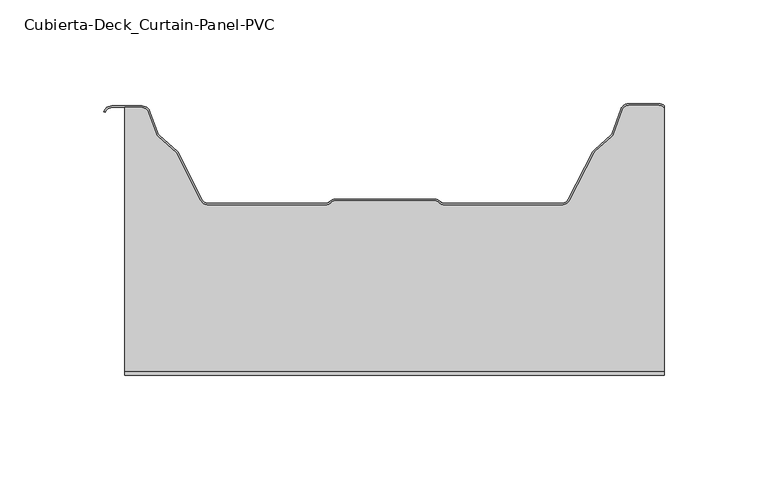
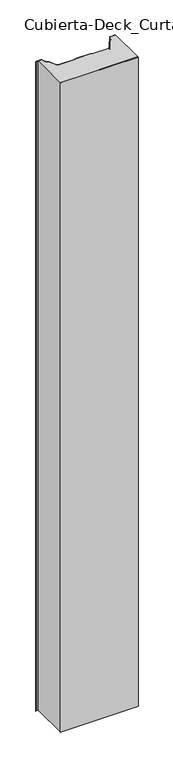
"""IFC4 building model written with IfcOpenShell, lengths in millimetres: plate geometry, Cubierta-Deck_Curtain-Panel-PVC : ACH_Cubierta-Deck_MW_80 mm."""

from ifc_helpers import new_model, si_unit, point, frame_2d, origin, origin_with_axes, place, context, project, spatial, polyline, circle_curve, trimmed, segment, composite_curve, outline, extrude, source, transform, mapped, element, save


def cubierta_deck_curtain_panel_pvc_baeb70c4(model_context):
    return source(origin(), model_context, "Body", "SweptSolid", [
        extrude(outline(composite_curve([segment(polyline([(20.9864059, -47.2718753), (21.6065616, -47.892031)]), True, "CONTINUOUS"), segment(trimmed(circle_curve(frame_2d((23.7985927, -45.7)), 3.1), [point((21.6065616, -47.892031))], [point((23.7985927, -48.8))], True, "CARTESIAN"), True, "CONTINUOUS"), segment(polyline([(23.7985927, -48.8), (80.5938139, -48.8)]), True, "CONTINUOUS"), segment(trimmed(circle_curve(frame_2d((80.5938139, -44.5)), 4.3), [point((80.5938139, -48.8))], [point((84.4115915, -46.4785284))], True, "CARTESIAN"), True, "CONTINUOUS"), segment(polyline([(84.4115915, -46.4785284), (96.3174124, -23.505001)]), True, "CONTINUOUS"), segment(trimmed(circle_curve(frame_2d((98.8921926, -24.8393573)), 2.9), [point((96.3174124, -23.505001))], [point((96.982764, -22.6566795))], False, "CARTESIAN"), True, "CONTINUOUS"), segment(polyline([(96.982764, -22.6566795), (104.7502093, -15.8616403)]), True, "CONTINUOUS"), segment(trimmed(circle_curve(frame_2d((102.709096, -13.5284329)), 3.1), [point((104.7502093, -15.8616403))], [point((105.6260947, -14.5777749))], True, "CARTESIAN"), True, "CONTINUOUS"), segment(polyline([(105.6260947, -14.5777749), (109.7733414, -3.0491088)]), True, "CONTINUOUS"), segment(trimmed(circle_curve(frame_2d((112.9726303, -4.2)), 3.4), [point((109.7733414, -3.0491088))], [point((112.9726303, -0.8))], False, "CARTESIAN"), True, "CONTINUOUS"), segment(polyline([(112.9726303, -0.8), (127.3079028, -0.8)]), True, "CONTINUOUS"), segment(trimmed(circle_curve(frame_2d((127.3079028, -4.2)), 3.4), [point((127.3079028, -0.8))], [point((130.0, -2.1233169))], False, "CARTESIAN"), True, "CONTINUOUS"), segment(polyline([(130.0, -2.1233169), (130.0, -128.8), (-130.0, -128.8), (-130.0, -1.8), (-121.8323638, -1.8)]), True, "CONTINUOUS"), segment(trimmed(circle_curve(frame_2d((-121.8323638, -5.2)), 3.4), [point((-121.8323638, -1.8))], [point((-118.6330749, -4.0491088))], False, "CARTESIAN"), True, "CONTINUOUS"), segment(polyline([(-118.6330749, -4.0491088), (-114.8455616, -14.5777749)]), True, "CONTINUOUS"), segment(trimmed(circle_curve(frame_2d((-111.9285629, -13.5284329)), 3.1), [point((-114.8455616, -14.5777749))], [point((-113.9696761, -15.8616403))], True, "CARTESIAN"), True, "CONTINUOUS"), segment(polyline([(-113.9696761, -15.8616403), (-105.3099327, -23.4372709)]), True, "CONTINUOUS"), segment(trimmed(circle_curve(frame_2d((-107.2193612, -25.6199488)), 2.9), [point((-105.3099327, -23.4372709))], [point((-104.6223111, -24.3294719))], False, "CARTESIAN"), True, "CONTINUOUS"), segment(polyline([(-104.6223111, -24.3294719), (-93.6487521, -46.4134657)]), True, "CONTINUOUS"), segment(trimmed(circle_curve(frame_2d((-89.7979536, -44.5)), 4.3), [point((-93.6487521, -46.4134657))], [point((-89.7979536, -48.8))], True, "CARTESIAN"), True, "CONTINUOUS"), segment(polyline([(-89.7979536, -48.8), (-33.0180596, -48.8)]), True, "CONTINUOUS"), segment(trimmed(circle_curve(frame_2d((-33.0180596, -45.7)), 3.1), [point((-33.0180596, -48.8))], [point((-30.8260285, -47.892031))], True, "CARTESIAN"), True, "CONTINUOUS"), segment(polyline([(-30.8260285, -47.892031), (-30.2058728, -47.2718753)]), True, "CONTINUOUS"), segment(trimmed(circle_curve(frame_2d((-28.5327782, -50.0020238)), 3.2020238), [point((-30.2058728, -47.2718753))], [point((-28.5327782, -46.8))], False, "CARTESIAN"), True, "CONTINUOUS"), segment(polyline([(-28.5327782, -46.8), (19.3133113, -46.8)]), True, "CONTINUOUS"), segment(trimmed(circle_curve(frame_2d((19.3133113, -50.0020238)), 3.2020238), [point((19.3133113, -46.8))], [point((20.9864059, -47.2718753))], False, "CARTESIAN"), True, "CONTINUOUS")], self_intersect=False)), origin_with_axes(), (0.0, 0.0, 1.0), 2300.0),
        extrude(outline(composite_curve([segment(polyline([(-136.1676362, -1.0), (-121.8323638, -1.0)]), True, "CONTINUOUS"), segment(trimmed(circle_curve(frame_2d((-121.8323638, -5.2)), 4.2), [point((-121.8323638, -1.0))], [point((-117.880301, -3.7783109))], False, "CARTESIAN"), True, "CONTINUOUS"), segment(polyline([(-117.880301, -3.7783109), (-114.0927877, -14.3069769)]), True, "CONTINUOUS"), segment(trimmed(circle_curve(frame_2d((-111.9285629, -13.5284329)), 2.3), [point((-114.0927877, -14.3069769))], [point((-113.4429372, -15.2595222))], True, "CARTESIAN"), True, "CONTINUOUS"), segment(polyline([(-113.4429372, -15.2595222), (-104.7831938, -22.8351529)]), True, "CONTINUOUS"), segment(trimmed(circle_curve(frame_2d((-107.2193612, -25.6199488)), 3.7), [point((-104.7831938, -22.8351529))], [point((-103.9058834, -23.9734783))], False, "CARTESIAN"), True, "CONTINUOUS"), segment(polyline([(-103.9058834, -23.9734783), (-92.9323245, -46.0574721)]), True, "CONTINUOUS"), segment(trimmed(circle_curve(frame_2d((-89.7979536, -44.5)), 3.5), [point((-92.9323245, -46.0574721))], [point((-89.7979536, -48.0))], True, "CARTESIAN"), True, "CONTINUOUS"), segment(polyline([(-89.7979536, -48.0), (-33.0180596, -48.0)]), True, "CONTINUOUS"), segment(trimmed(circle_curve(frame_2d((-33.0180596, -45.7)), 2.3), [point((-33.0180596, -48.0))], [point((-31.391714, -47.3263456))], True, "CARTESIAN"), True, "CONTINUOUS"), segment(polyline([(-31.391714, -47.3263456), (-30.7083848, -46.6430165)]), True, "CONTINUOUS"), segment(trimmed(circle_curve(frame_2d((-28.5327782, -50.0020238)), 4.0020238), [point((-30.7083848, -46.6430165))], [point((-28.5327782, -46.0))], False, "CARTESIAN"), True, "CONTINUOUS"), segment(polyline([(-28.5327782, -46.0), (19.3133113, -46.0)]), True, "CONTINUOUS"), segment(trimmed(circle_curve(frame_2d((19.3133113, -50.0020238)), 4.0020238), [point((19.3133113, -46.0))], [point((21.488918, -46.6430165))], False, "CARTESIAN"), True, "CONTINUOUS"), segment(polyline([(21.488918, -46.6430165), (22.1722471, -47.3263456)]), True, "CONTINUOUS"), segment(trimmed(circle_curve(frame_2d((23.7985927, -45.7)), 2.3), [point((22.1722471, -47.3263456))], [point((23.7985927, -48.0))], True, "CARTESIAN"), True, "CONTINUOUS"), segment(polyline([(23.7985927, -48.0), (80.5938139, -48.0)]), True, "CONTINUOUS"), segment(trimmed(circle_curve(frame_2d((80.5938139, -44.5)), 3.5), [point((80.5938139, -48.0))], [point((83.7013073, -46.1104301))], True, "CARTESIAN"), True, "CONTINUOUS"), segment(polyline([(83.7013073, -46.1104301), (95.6071282, -23.1369027)]), True, "CONTINUOUS"), segment(trimmed(circle_curve(frame_2d((98.8921926, -24.8393573)), 3.7), [point((95.6071282, -23.1369027))], [point((96.4560251, -22.0545614))], False, "CARTESIAN"), True, "CONTINUOUS"), segment(polyline([(96.4560251, -22.0545614), (104.2234703, -15.2595222)]), True, "CONTINUOUS"), segment(trimmed(circle_curve(frame_2d((102.709096, -13.5284329)), 2.3), [point((104.2234703, -15.2595222))], [point((104.8733208, -14.3069769))], True, "CARTESIAN"), True, "CONTINUOUS"), segment(polyline([(104.8733208, -14.3069769), (109.0205676, -2.7783109)]), True, "CONTINUOUS"), segment(trimmed(circle_curve(frame_2d((112.9726303, -4.2)), 4.2), [point((109.0205676, -2.7783109))], [point((112.9726303, 0.0))], False, "CARTESIAN"), True, "CONTINUOUS"), segment(polyline([(112.9726303, 0.0), (127.3079028, 0.0)]), True, "CONTINUOUS"), segment(trimmed(circle_curve(frame_2d((127.3079028, -4.2)), 4.2), [point((127.3079028, 0.0))], [point((130.0, -0.9762425))], False, "CARTESIAN"), True, "CONTINUOUS"), segment(polyline([(130.0, -0.9762425), (130.0, -2.1233169)]), True, "CONTINUOUS"), segment(trimmed(circle_curve(frame_2d((127.3079028, -4.2)), 3.4), [point((130.0, -2.1233169))], [point((127.3079028, -0.8))], True, "CARTESIAN"), True, "CONTINUOUS"), segment(polyline([(127.3079028, -0.8), (112.9726303, -0.8)]), True, "CONTINUOUS"), segment(trimmed(circle_curve(frame_2d((112.9726303, -4.2)), 3.4), [point((112.9726303, -0.8))], [point((109.7733414, -3.0491088))], True, "CARTESIAN"), True, "CONTINUOUS"), segment(polyline([(109.7733414, -3.0491088), (105.6260947, -14.5777749)]), True, "CONTINUOUS"), segment(trimmed(circle_curve(frame_2d((102.709096, -13.5284329)), 3.1), [point((105.6260947, -14.5777749))], [point((104.7502093, -15.8616403))], False, "CARTESIAN"), True, "CONTINUOUS"), segment(polyline([(104.7502093, -15.8616403), (96.982764, -22.6566795)]), True, "CONTINUOUS"), segment(trimmed(circle_curve(frame_2d((98.8921926, -24.8393573)), 2.9), [point((96.982764, -22.6566795))], [point((96.3174124, -23.505001))], True, "CARTESIAN"), True, "CONTINUOUS"), segment(polyline([(96.3174124, -23.505001), (84.4115915, -46.4785284)]), True, "CONTINUOUS"), segment(trimmed(circle_curve(frame_2d((80.5938139, -44.5)), 4.3), [point((84.4115915, -46.4785284))], [point((80.5938139, -48.8))], False, "CARTESIAN"), True, "CONTINUOUS"), segment(polyline([(80.5938139, -48.8), (23.7985927, -48.8)]), True, "CONTINUOUS"), segment(trimmed(circle_curve(frame_2d((23.7985927, -45.7)), 3.1), [point((23.7985927, -48.8))], [point((21.6065616, -47.892031))], False, "CARTESIAN"), True, "CONTINUOUS"), segment(polyline([(21.6065616, -47.892031), (20.9864059, -47.2718753)]), True, "CONTINUOUS"), segment(trimmed(circle_curve(frame_2d((19.3133113, -50.0020238)), 3.2020238), [point((20.9864059, -47.2718753))], [point((19.3133113, -46.8))], True, "CARTESIAN"), True, "CONTINUOUS"), segment(polyline([(19.3133113, -46.8), (-28.5327782, -46.8)]), True, "CONTINUOUS"), segment(trimmed(circle_curve(frame_2d((-28.5327782, -50.0020238)), 3.2020238), [point((-28.5327782, -46.8))], [point((-30.2058728, -47.2718753))], True, "CARTESIAN"), True, "CONTINUOUS"), segment(polyline([(-30.2058728, -47.2718753), (-30.8260285, -47.892031)]), True, "CONTINUOUS"), segment(trimmed(circle_curve(frame_2d((-33.0180596, -45.7)), 3.1), [point((-30.8260285, -47.892031))], [point((-33.0180596, -48.8))], False, "CARTESIAN"), True, "CONTINUOUS"), segment(polyline([(-33.0180596, -48.8), (-89.7979536, -48.8)]), True, "CONTINUOUS"), segment(trimmed(circle_curve(frame_2d((-89.7979536, -44.5)), 4.3), [point((-89.7979536, -48.8))], [point((-93.6487521, -46.4134657))], False, "CARTESIAN"), True, "CONTINUOUS"), segment(polyline([(-93.6487521, -46.4134657), (-104.6223111, -24.3294719)]), True, "CONTINUOUS"), segment(trimmed(circle_curve(frame_2d((-107.2193612, -25.6199488)), 2.9), [point((-104.6223111, -24.3294719))], [point((-105.3099327, -23.4372709))], True, "CARTESIAN"), True, "CONTINUOUS"), segment(polyline([(-105.3099327, -23.4372709), (-113.9696761, -15.8616403)]), True, "CONTINUOUS"), segment(trimmed(circle_curve(frame_2d((-111.9285629, -13.5284329)), 3.1), [point((-113.9696761, -15.8616403))], [point((-114.8455616, -14.5777749))], False, "CARTESIAN"), True, "CONTINUOUS"), segment(polyline([(-114.8455616, -14.5777749), (-118.6330749, -4.0491088)]), True, "CONTINUOUS"), segment(trimmed(circle_curve(frame_2d((-121.8323638, -5.2)), 3.4), [point((-118.6330749, -4.0491088))], [point((-121.8323638, -1.8))], True, "CARTESIAN"), True, "CONTINUOUS"), segment(polyline([(-121.8323638, -1.8), (-136.1676362, -1.8)]), True, "CONTINUOUS"), segment(trimmed(circle_curve(frame_2d((-136.1676362, -5.2)), 3.4), [point((-136.1676362, -1.8))], [point((-139.3669251, -4.0491088))], True, "CARTESIAN"), True, "CONTINUOUS"), segment(polyline([(-139.3669251, -4.0491088), (-140.119699, -3.7783109)]), True, "CONTINUOUS"), segment(trimmed(circle_curve(frame_2d((-136.1676362, -5.2)), 4.2), [point((-140.119699, -3.7783109))], [point((-136.1676362, -1.0))], False, "CARTESIAN"), True, "CONTINUOUS")], self_intersect=False)), origin_with_axes(), (0.0, 0.0, 1.0), 2300.0),
        extrude(outline(polyline([(-130.0, -130.8), (-130.0, -128.8), (130.0, -128.8), (130.0, -130.8), (-130.0, -130.8)])), origin_with_axes(), (0.0, 0.0, 1.0), 2300.0),
    ])


if __name__ == "__main__":
    model = new_model("IFC4")
    model_context = context("Model", 3, world=origin())
    ifc_project = project(units=[si_unit("LENGTHUNIT", "METRE", prefix="MILLI")], contexts=[model_context])
    site = spatial("IfcSite", under=ifc_project)
    building = spatial("IfcBuilding", under=site)
    placement = place(None, origin())
    cubierta_deck_curtain_panel_pvc_shape = cubierta_deck_curtain_panel_pvc_baeb70c4(model_context)
    element("IfcPlate", 1, ObjectType="Cubierta-Deck_Curtain-Panel-PVC : ACH_Cubierta-Deck_MW_80 mm", at=placement, inside=building, context=model_context, shape_type="MappedRepresentation", body=[
        mapped(cubierta_deck_curtain_panel_pvc_shape, transform((0.0, 0.0, 0.0), x_axis=(1.0, 0.0, 0.0), y_axis=(0.0, 1.0, 0.0), z_axis=(0.0, 0.0, 1.0))),
    ])
    save(model, "model.ifc")
